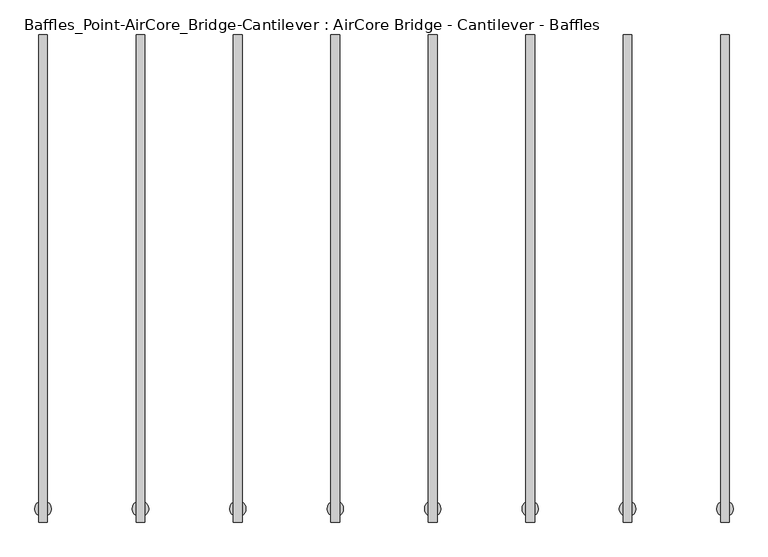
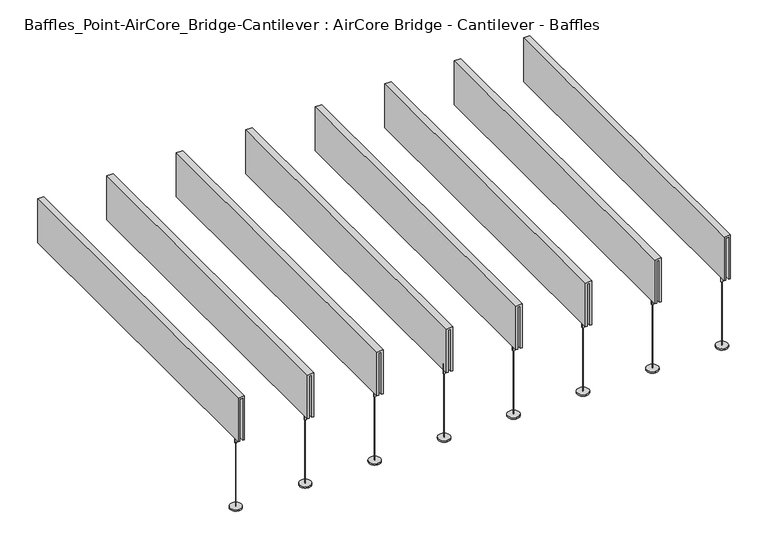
"""IFC4 building model written with IfcOpenShell, lengths in millimetres: light fixture geometry, Baffles_Point-AirCore_Bridge-Cantilever : AirCore Bridge - Cantilever - Baffles."""

from ifc_helpers import new_model, si_unit, point, frame, frame_2d, origin, origin_with_axes, place, context, project, spatial, polyline, circle_curve, trimmed, segment, composite_curve, outline, extrude, source, transform, mapped, element, save
from ifc_brep_helpers import plane_surface, cylinder_surface, advanced_brep


def baffles_point_aircore_bridge_cantilever_aircore_bridge_8e100021(model_context):
    return source(origin(), model_context, "Body", "SolidModel", [
        extrude(outline(polyline([(1060.846875, 123.825), (1072.753125, 123.825), (1072.753125, -1343.025), (1060.846875, -1343.025), (1060.846875, 123.825)])), frame((0.0, 0.0, 333.9703125), z_axis=(0.0, 0.0, 1.0), x_axis=(1.0, 0.0, 0.0)), (0.0, 0.0, 1.0), 195.2625),
        extrude(outline(polyline([(537.1703125, 1080.690625), (537.1703125, 1052.909375), (333.9703125, 1052.909375), (333.9703125, 1060.846875), (529.2328125, 1060.846875), (529.2328125, 1072.753125), (333.9703125, 1072.753125), (333.9703125, 1080.690625), (537.1703125, 1080.690625)])), frame((0.0, -1371.6, 0.0), z_axis=(0.0, 1.0, 0.0), x_axis=(0.0, 0.0, 1.0)), (0.0, 0.0, 1.0), 1524.0),
        advanced_brep(
        [(1066.8, -1330.325, 0.0), (1067.7237535, -1330.325, 0.0), (1065.8762465, -1330.325, 0.0), (1067.7237535, -1330.325, 302.2203125), (1065.8762465, -1330.325, 302.2203125), (1070.76875, -1330.325, 302.2203125), (1062.83125, -1330.325, 302.2203125), (1070.76875, -1330.325, 346.6703125), (1062.83125, -1330.325, 346.6703125), (1066.8, -1330.325, 346.6703125)],
        [
            (0, 1),
            (1, 2, circle_curve(frame((1066.8, -1330.325, 0.0), z_axis=(0.0, 0.0, -1.0), x_axis=(1.0, 0.0, 0.0)), 0.9237535)),
            (2, 0),
            (2, 1, circle_curve(frame((1066.8, -1330.325, 0.0), z_axis=(0.0, 0.0, -1.0), x_axis=(1.0, 0.0, 0.0)), 0.9237535)),
            (1, 3),
            (3, 4, circle_curve(frame((1066.8, -1330.325, 302.2203125), z_axis=(0.0, 0.0, -1.0), x_axis=(1.0, 0.0, 0.0)), 0.9237535)),
            (4, 2),
            (4, 3, circle_curve(frame((1066.8, -1330.325, 302.2203125), z_axis=(0.0, 0.0, -1.0), x_axis=(1.0, 0.0, 0.0)), 0.9237535)),
            (3, 5),
            (5, 6, circle_curve(frame((1066.8, -1330.325, 302.2203125), z_axis=(0.0, 0.0, -1.0), x_axis=(1.0, 0.0, 0.0)), 3.96875)),
            (6, 4),
            (6, 5, circle_curve(frame((1066.8, -1330.325, 302.2203125), z_axis=(0.0, 0.0, -1.0), x_axis=(1.0, 0.0, 0.0)), 3.96875)),
            (5, 7),
            (7, 8, circle_curve(frame((1066.8, -1330.325, 346.6703125), z_axis=(0.0, 0.0, -1.0), x_axis=(1.0, 0.0, 0.0)), 3.96875)),
            (8, 6),
            (8, 7, circle_curve(frame((1066.8, -1330.325, 346.6703125), z_axis=(0.0, 0.0, -1.0), x_axis=(1.0, 0.0, 0.0)), 3.96875)),
            (7, 9),
            (9, 8),
        ],
        [
            plane_surface(frame((1066.8, -1330.325, 0.0), z_axis=(0.0, 0.0, -1.0), x_axis=(1.0, 0.0, 0.0))),
            cylinder_surface(frame((1066.8, -1330.325, 391.1203125), z_axis=(0.0, 0.0, -1.0), x_axis=(1.0, 0.0, 0.0)), 0.9237535),
            plane_surface(frame((1066.8, -1330.325, 302.2203125), z_axis=(0.0, 0.0, -1.0), x_axis=(1.0, 0.0, 0.0))),
            cylinder_surface(frame((1066.8, -1330.325, 391.1203125), z_axis=(0.0, 0.0, -1.0), x_axis=(1.0, 0.0, 0.0)), 3.96875),
            plane_surface(frame((1066.8, -1330.325, 346.6703125), z_axis=(0.0, 0.0, 1.0), x_axis=(1.0, 0.0, 0.0))),
        ],
        [
            (0, [[1, 2, 3]]),
            (0, [[-3, 4, -1]]),
            (1, [[-2, 5, 6, 7]]),
            (1, [[-4, -7, 8, -5]]),
            (2, [[-6, 9, 10, 11]]),
            (2, [[-8, -11, 12, -9]]),
            (3, [[-10, 13, 14, 15]]),
            (3, [[-12, -15, 16, -13]]),
            (4, [[-14, 17, 18]]),
            (4, [[-16, -18, -17]]),
        ],
    ),
        extrude(outline(composite_curve([segment(trimmed(circle_curve(frame_2d((1066.8, -1330.325)), 25.4), [point((1066.8, -1355.725))], [point((1066.8, -1304.925))], False, "CARTESIAN"), True, "CONTINUOUS"), segment(trimmed(circle_curve(frame_2d((1066.8, -1330.325)), 25.4), [point((1066.8, -1304.925))], [point((1066.8, -1355.725))], False, "CARTESIAN"), True, "CONTINUOUS")], self_intersect=False)), origin_with_axes(), (0.0, 0.0, 1.0), 6.35),
        extrude(outline(polyline([(756.046875, 123.825), (767.953125, 123.825), (767.953125, -1343.025), (756.046875, -1343.025), (756.046875, 123.825)])), frame((0.0, 0.0, 333.9703125), z_axis=(0.0, 0.0, 1.0), x_axis=(1.0, 0.0, 0.0)), (0.0, 0.0, 1.0), 195.2625),
        extrude(outline(polyline([(537.1703125, 775.890625), (537.1703125, 748.109375), (333.9703125, 748.109375), (333.9703125, 756.046875), (529.2328125, 756.046875), (529.2328125, 767.953125), (333.9703125, 767.953125), (333.9703125, 775.890625), (537.1703125, 775.890625)])), frame((0.0, -1371.6, 0.0), z_axis=(0.0, 1.0, 0.0), x_axis=(0.0, 0.0, 1.0)), (0.0, 0.0, 1.0), 1524.0),
        advanced_brep(
        [(762.0, -1330.325, 0.0), (762.9237535, -1330.325, 0.0), (761.0762465, -1330.325, 0.0), (762.9237535, -1330.325, 302.2203125), (761.0762465, -1330.325, 302.2203125), (765.96875, -1330.325, 302.2203125), (758.03125, -1330.325, 302.2203125), (765.96875, -1330.325, 346.6703125), (758.03125, -1330.325, 346.6703125), (762.0, -1330.325, 346.6703125)],
        [
            (0, 1),
            (1, 2, circle_curve(frame((762.0, -1330.325, 0.0), z_axis=(0.0, 0.0, -1.0), x_axis=(1.0, 0.0, 0.0)), 0.9237535)),
            (2, 0),
            (2, 1, circle_curve(frame((762.0, -1330.325, 0.0), z_axis=(0.0, 0.0, -1.0), x_axis=(1.0, 0.0, 0.0)), 0.9237535)),
            (1, 3),
            (3, 4, circle_curve(frame((762.0, -1330.325, 302.2203125), z_axis=(0.0, 0.0, -1.0), x_axis=(1.0, 0.0, 0.0)), 0.9237535)),
            (4, 2),
            (4, 3, circle_curve(frame((762.0, -1330.325, 302.2203125), z_axis=(0.0, 0.0, -1.0), x_axis=(1.0, 0.0, 0.0)), 0.9237535)),
            (3, 5),
            (5, 6, circle_curve(frame((762.0, -1330.325, 302.2203125), z_axis=(0.0, 0.0, -1.0), x_axis=(1.0, 0.0, 0.0)), 3.96875)),
            (6, 4),
            (6, 5, circle_curve(frame((762.0, -1330.325, 302.2203125), z_axis=(0.0, 0.0, -1.0), x_axis=(1.0, 0.0, 0.0)), 3.96875)),
            (5, 7),
            (7, 8, circle_curve(frame((762.0, -1330.325, 346.6703125), z_axis=(0.0, 0.0, -1.0), x_axis=(1.0, 0.0, 0.0)), 3.96875)),
            (8, 6),
            (8, 7, circle_curve(frame((762.0, -1330.325, 346.6703125), z_axis=(0.0, 0.0, -1.0), x_axis=(1.0, 0.0, 0.0)), 3.96875)),
            (7, 9),
            (9, 8),
        ],
        [
            plane_surface(frame((762.0, -1330.325, 0.0), z_axis=(0.0, 0.0, -1.0), x_axis=(1.0, 0.0, 0.0))),
            cylinder_surface(frame((762.0, -1330.325, 391.1203125), z_axis=(0.0, 0.0, -1.0), x_axis=(1.0, 0.0, 0.0)), 0.9237535),
            plane_surface(frame((762.0, -1330.325, 302.2203125), z_axis=(0.0, 0.0, -1.0), x_axis=(1.0, 0.0, 0.0))),
            cylinder_surface(frame((762.0, -1330.325, 391.1203125), z_axis=(0.0, 0.0, -1.0), x_axis=(1.0, 0.0, 0.0)), 3.96875),
            plane_surface(frame((762.0, -1330.325, 346.6703125), z_axis=(0.0, 0.0, 1.0), x_axis=(1.0, 0.0, 0.0))),
        ],
        [
            (0, [[1, 2, 3]]),
            (0, [[-3, 4, -1]]),
            (1, [[-2, 5, 6, 7]]),
            (1, [[-4, -7, 8, -5]]),
            (2, [[-6, 9, 10, 11]]),
            (2, [[-8, -11, 12, -9]]),
            (3, [[-10, 13, 14, 15]]),
            (3, [[-12, -15, 16, -13]]),
            (4, [[-14, 17, 18]]),
            (4, [[-16, -18, -17]]),
        ],
    ),
        extrude(outline(composite_curve([segment(trimmed(circle_curve(frame_2d((762.0, -1330.325)), 25.4), [point((762.0, -1355.725))], [point((762.0, -1304.925))], False, "CARTESIAN"), True, "CONTINUOUS"), segment(trimmed(circle_curve(frame_2d((762.0, -1330.325)), 25.4), [point((762.0, -1304.925))], [point((762.0, -1355.725))], False, "CARTESIAN"), True, "CONTINUOUS")], self_intersect=False)), origin_with_axes(), (0.0, 0.0, 1.0), 6.35),
        extrude(outline(polyline([(451.246875, 123.825), (463.153125, 123.825), (463.153125, -1343.025), (451.246875, -1343.025), (451.246875, 123.825)])), frame((0.0, 0.0, 333.9703125), z_axis=(0.0, 0.0, 1.0), x_axis=(1.0, 0.0, 0.0)), (0.0, 0.0, 1.0), 195.2625),
        extrude(outline(polyline([(537.1703125, 471.090625), (537.1703125, 443.309375), (333.9703125, 443.309375), (333.9703125, 451.246875), (529.2328125, 451.246875), (529.2328125, 463.153125), (333.9703125, 463.153125), (333.9703125, 471.090625), (537.1703125, 471.090625)])), frame((0.0, -1371.6, 0.0), z_axis=(0.0, 1.0, 0.0), x_axis=(0.0, 0.0, 1.0)), (0.0, 0.0, 1.0), 1524.0),
        advanced_brep(
        [(457.2, -1330.325, 0.0), (458.1237535, -1330.325, 0.0), (456.2762465, -1330.325, 0.0), (458.1237535, -1330.325, 302.2203125), (456.2762465, -1330.325, 302.2203125), (461.16875, -1330.325, 302.2203125), (453.23125, -1330.325, 302.2203125), (461.16875, -1330.325, 346.6703125), (453.23125, -1330.325, 346.6703125), (457.2, -1330.325, 346.6703125)],
        [
            (0, 1),
            (1, 2, circle_curve(frame((457.2, -1330.325, 0.0), z_axis=(0.0, 0.0, -1.0), x_axis=(1.0, 0.0, 0.0)), 0.9237535)),
            (2, 0),
            (2, 1, circle_curve(frame((457.2, -1330.325, 0.0), z_axis=(0.0, 0.0, -1.0), x_axis=(1.0, 0.0, 0.0)), 0.9237535)),
            (1, 3),
            (3, 4, circle_curve(frame((457.2, -1330.325, 302.2203125), z_axis=(0.0, 0.0, -1.0), x_axis=(1.0, 0.0, 0.0)), 0.9237535)),
            (4, 2),
            (4, 3, circle_curve(frame((457.2, -1330.325, 302.2203125), z_axis=(0.0, 0.0, -1.0), x_axis=(1.0, 0.0, 0.0)), 0.9237535)),
            (3, 5),
            (5, 6, circle_curve(frame((457.2, -1330.325, 302.2203125), z_axis=(0.0, 0.0, -1.0), x_axis=(1.0, 0.0, 0.0)), 3.96875)),
            (6, 4),
            (6, 5, circle_curve(frame((457.2, -1330.325, 302.2203125), z_axis=(0.0, 0.0, -1.0), x_axis=(1.0, 0.0, 0.0)), 3.96875)),
            (5, 7),
            (7, 8, circle_curve(frame((457.2, -1330.325, 346.6703125), z_axis=(0.0, 0.0, -1.0), x_axis=(1.0, 0.0, 0.0)), 3.96875)),
            (8, 6),
            (8, 7, circle_curve(frame((457.2, -1330.325, 346.6703125), z_axis=(0.0, 0.0, -1.0), x_axis=(1.0, 0.0, 0.0)), 3.96875)),
            (7, 9),
            (9, 8),
        ],
        [
            plane_surface(frame((457.2, -1330.325, 0.0), z_axis=(0.0, 0.0, -1.0), x_axis=(1.0, 0.0, 0.0))),
            cylinder_surface(frame((457.2, -1330.325, 391.1203125), z_axis=(0.0, 0.0, -1.0), x_axis=(1.0, 0.0, 0.0)), 0.9237535),
            plane_surface(frame((457.2, -1330.325, 302.2203125), z_axis=(0.0, 0.0, -1.0), x_axis=(1.0, 0.0, 0.0))),
            cylinder_surface(frame((457.2, -1330.325, 391.1203125), z_axis=(0.0, 0.0, -1.0), x_axis=(1.0, 0.0, 0.0)), 3.96875),
            plane_surface(frame((457.2, -1330.325, 346.6703125), z_axis=(0.0, 0.0, 1.0), x_axis=(1.0, 0.0, 0.0))),
        ],
        [
            (0, [[1, 2, 3]]),
            (0, [[-3, 4, -1]]),
            (1, [[-2, 5, 6, 7]]),
            (1, [[-4, -7, 8, -5]]),
            (2, [[-6, 9, 10, 11]]),
            (2, [[-8, -11, 12, -9]]),
            (3, [[-10, 13, 14, 15]]),
            (3, [[-12, -15, 16, -13]]),
            (4, [[-14, 17, 18]]),
            (4, [[-16, -18, -17]]),
        ],
    ),
        extrude(outline(composite_curve([segment(trimmed(circle_curve(frame_2d((457.2, -1330.325)), 25.4), [point((457.2, -1355.725))], [point((457.2, -1304.925))], False, "CARTESIAN"), True, "CONTINUOUS"), segment(trimmed(circle_curve(frame_2d((457.2, -1330.325)), 25.4), [point((457.2, -1304.925))], [point((457.2, -1355.725))], False, "CARTESIAN"), True, "CONTINUOUS")], self_intersect=False)), origin_with_axes(), (0.0, 0.0, 1.0), 6.35),
        extrude(outline(polyline([(146.446875, 123.825), (158.353125, 123.825), (158.353125, -1343.025), (146.446875, -1343.025), (146.446875, 123.825)])), frame((0.0, 0.0, 333.9703125), z_axis=(0.0, 0.0, 1.0), x_axis=(1.0, 0.0, 0.0)), (0.0, 0.0, 1.0), 195.2625),
        extrude(outline(polyline([(537.1703125, 166.290625), (537.1703125, 138.509375), (333.9703125, 138.509375), (333.9703125, 146.446875), (529.2328125, 146.446875), (529.2328125, 158.353125), (333.9703125, 158.353125), (333.9703125, 166.290625), (537.1703125, 166.290625)])), frame((0.0, -1371.6, 0.0), z_axis=(0.0, 1.0, 0.0), x_axis=(0.0, 0.0, 1.0)), (0.0, 0.0, 1.0), 1524.0),
        advanced_brep(
        [(152.4, -1330.325, 0.0), (153.3237535, -1330.325, 0.0), (151.4762465, -1330.325, 0.0), (153.3237535, -1330.325, 302.2203125), (151.4762465, -1330.325, 302.2203125), (156.36875, -1330.325, 302.2203125), (148.43125, -1330.325, 302.2203125), (156.36875, -1330.325, 346.6703125), (148.43125, -1330.325, 346.6703125), (152.4, -1330.325, 346.6703125)],
        [
            (0, 1),
            (1, 2, circle_curve(frame((152.4, -1330.325, 0.0), z_axis=(0.0, 0.0, -1.0), x_axis=(1.0, 0.0, 0.0)), 0.9237535)),
            (2, 0),
            (2, 1, circle_curve(frame((152.4, -1330.325, 0.0), z_axis=(0.0, 0.0, -1.0), x_axis=(1.0, 0.0, 0.0)), 0.9237535)),
            (1, 3),
            (3, 4, circle_curve(frame((152.4, -1330.325, 302.2203125), z_axis=(0.0, 0.0, -1.0), x_axis=(1.0, 0.0, 0.0)), 0.9237535)),
            (4, 2),
            (4, 3, circle_curve(frame((152.4, -1330.325, 302.2203125), z_axis=(0.0, 0.0, -1.0), x_axis=(1.0, 0.0, 0.0)), 0.9237535)),
            (3, 5),
            (5, 6, circle_curve(frame((152.4, -1330.325, 302.2203125), z_axis=(0.0, 0.0, -1.0), x_axis=(1.0, 0.0, 0.0)), 3.96875)),
            (6, 4),
            (6, 5, circle_curve(frame((152.4, -1330.325, 302.2203125), z_axis=(0.0, 0.0, -1.0), x_axis=(1.0, 0.0, 0.0)), 3.96875)),
            (5, 7),
            (7, 8, circle_curve(frame((152.4, -1330.325, 346.6703125), z_axis=(0.0, 0.0, -1.0), x_axis=(1.0, 0.0, 0.0)), 3.96875)),
            (8, 6),
            (8, 7, circle_curve(frame((152.4, -1330.325, 346.6703125), z_axis=(0.0, 0.0, -1.0), x_axis=(1.0, 0.0, 0.0)), 3.96875)),
            (7, 9),
            (9, 8),
        ],
        [
            plane_surface(frame((152.4, -1330.325, 0.0), z_axis=(0.0, 0.0, -1.0), x_axis=(1.0, 0.0, 0.0))),
            cylinder_surface(frame((152.4, -1330.325, 391.1203125), z_axis=(0.0, 0.0, -1.0), x_axis=(1.0, 0.0, 0.0)), 0.9237535),
            plane_surface(frame((152.4, -1330.325, 302.2203125), z_axis=(0.0, 0.0, -1.0), x_axis=(1.0, 0.0, 0.0))),
            cylinder_surface(frame((152.4, -1330.325, 391.1203125), z_axis=(0.0, 0.0, -1.0), x_axis=(1.0, 0.0, 0.0)), 3.96875),
            plane_surface(frame((152.4, -1330.325, 346.6703125), z_axis=(0.0, 0.0, 1.0), x_axis=(1.0, 0.0, 0.0))),
        ],
        [
            (0, [[1, 2, 3]]),
            (0, [[-3, 4, -1]]),
            (1, [[-2, 5, 6, 7]]),
            (1, [[-4, -7, 8, -5]]),
            (2, [[-6, 9, 10, 11]]),
            (2, [[-8, -11, 12, -9]]),
            (3, [[-10, 13, 14, 15]]),
            (3, [[-12, -15, 16, -13]]),
            (4, [[-14, 17, 18]]),
            (4, [[-16, -18, -17]]),
        ],
    ),
        extrude(outline(composite_curve([segment(trimmed(circle_curve(frame_2d((152.4, -1330.325)), 25.4), [point((152.4, -1355.725))], [point((152.4, -1304.925))], False, "CARTESIAN"), True, "CONTINUOUS"), segment(trimmed(circle_curve(frame_2d((152.4, -1330.325)), 25.4), [point((152.4, -1304.925))], [point((152.4, -1355.725))], False, "CARTESIAN"), True, "CONTINUOUS")], self_intersect=False)), origin_with_axes(), (0.0, 0.0, 1.0), 6.35),
        extrude(outline(polyline([(-158.353125, 123.825), (-146.446875, 123.825), (-146.446875, -1343.025), (-158.353125, -1343.025), (-158.353125, 123.825)])), frame((0.0, 0.0, 333.9703125), z_axis=(0.0, 0.0, 1.0), x_axis=(1.0, 0.0, 0.0)), (0.0, 0.0, 1.0), 195.2625),
        extrude(outline(polyline([(537.1703125, -138.509375), (537.1703125, -166.290625), (333.9703125, -166.290625), (333.9703125, -158.353125), (529.2328125, -158.353125), (529.2328125, -146.446875), (333.9703125, -146.446875), (333.9703125, -138.509375), (537.1703125, -138.509375)])), frame((0.0, -1371.6, 0.0), z_axis=(0.0, 1.0, 0.0), x_axis=(0.0, 0.0, 1.0)), (0.0, 0.0, 1.0), 1524.0),
        advanced_brep(
        [(-152.4, -1330.325, 0.0), (-151.4762465, -1330.325, 0.0), (-153.3237535, -1330.325, 0.0), (-151.4762465, -1330.325, 302.2203125), (-153.3237535, -1330.325, 302.2203125), (-148.43125, -1330.325, 302.2203125), (-156.36875, -1330.325, 302.2203125), (-148.43125, -1330.325, 346.6703125), (-156.36875, -1330.325, 346.6703125), (-152.4, -1330.325, 346.6703125)],
        [
            (0, 1),
            (1, 2, circle_curve(frame((-152.4, -1330.325, 0.0), z_axis=(0.0, 0.0, -1.0), x_axis=(1.0, 0.0, 0.0)), 0.9237535)),
            (2, 0),
            (2, 1, circle_curve(frame((-152.4, -1330.325, 0.0), z_axis=(0.0, 0.0, -1.0), x_axis=(1.0, 0.0, 0.0)), 0.9237535)),
            (1, 3),
            (3, 4, circle_curve(frame((-152.4, -1330.325, 302.2203125), z_axis=(0.0, 0.0, -1.0), x_axis=(1.0, 0.0, 0.0)), 0.9237535)),
            (4, 2),
            (4, 3, circle_curve(frame((-152.4, -1330.325, 302.2203125), z_axis=(0.0, 0.0, -1.0), x_axis=(1.0, 0.0, 0.0)), 0.9237535)),
            (3, 5),
            (5, 6, circle_curve(frame((-152.4, -1330.325, 302.2203125), z_axis=(0.0, 0.0, -1.0), x_axis=(1.0, 0.0, 0.0)), 3.96875)),
            (6, 4),
            (6, 5, circle_curve(frame((-152.4, -1330.325, 302.2203125), z_axis=(0.0, 0.0, -1.0), x_axis=(1.0, 0.0, 0.0)), 3.96875)),
            (5, 7),
            (7, 8, circle_curve(frame((-152.4, -1330.325, 346.6703125), z_axis=(0.0, 0.0, -1.0), x_axis=(1.0, 0.0, 0.0)), 3.96875)),
            (8, 6),
            (8, 7, circle_curve(frame((-152.4, -1330.325, 346.6703125), z_axis=(0.0, 0.0, -1.0), x_axis=(1.0, 0.0, 0.0)), 3.96875)),
            (7, 9),
            (9, 8),
        ],
        [
            plane_surface(frame((-152.4, -1330.325, 0.0), z_axis=(0.0, 0.0, -1.0), x_axis=(1.0, 0.0, 0.0))),
            cylinder_surface(frame((-152.4, -1330.325, 391.1203125), z_axis=(0.0, 0.0, -1.0), x_axis=(1.0, 0.0, 0.0)), 0.9237535),
            plane_surface(frame((-152.4, -1330.325, 302.2203125), z_axis=(0.0, 0.0, -1.0), x_axis=(1.0, 0.0, 0.0))),
            cylinder_surface(frame((-152.4, -1330.325, 391.1203125), z_axis=(0.0, 0.0, -1.0), x_axis=(1.0, 0.0, 0.0)), 3.96875),
            plane_surface(frame((-152.4, -1330.325, 346.6703125), z_axis=(0.0, 0.0, 1.0), x_axis=(1.0, 0.0, 0.0))),
        ],
        [
            (0, [[1, 2, 3]]),
            (0, [[-3, 4, -1]]),
            (1, [[-2, 5, 6, 7]]),
            (1, [[-4, -7, 8, -5]]),
            (2, [[-6, 9, 10, 11]]),
            (2, [[-8, -11, 12, -9]]),
            (3, [[-10, 13, 14, 15]]),
            (3, [[-12, -15, 16, -13]]),
            (4, [[-14, 17, 18]]),
            (4, [[-16, -18, -17]]),
        ],
    ),
        extrude(outline(composite_curve([segment(trimmed(circle_curve(frame_2d((-152.4, -1330.325)), 25.4), [point((-152.4, -1355.725))], [point((-152.4, -1304.925))], False, "CARTESIAN"), True, "CONTINUOUS"), segment(trimmed(circle_curve(frame_2d((-152.4, -1330.325)), 25.4), [point((-152.4, -1304.925))], [point((-152.4, -1355.725))], False, "CARTESIAN"), True, "CONTINUOUS")], self_intersect=False)), origin_with_axes(), (0.0, 0.0, 1.0), 6.35),
        extrude(outline(polyline([(-463.153125, 123.825), (-451.246875, 123.825), (-451.246875, -1343.025), (-463.153125, -1343.025), (-463.153125, 123.825)])), frame((0.0, 0.0, 333.9703125), z_axis=(0.0, 0.0, 1.0), x_axis=(1.0, 0.0, 0.0)), (0.0, 0.0, 1.0), 195.2625),
        extrude(outline(polyline([(537.1703125, -443.309375), (537.1703125, -471.090625), (333.9703125, -471.090625), (333.9703125, -463.153125), (529.2328125, -463.153125), (529.2328125, -451.246875), (333.9703125, -451.246875), (333.9703125, -443.309375), (537.1703125, -443.309375)])), frame((0.0, -1371.6, 0.0), z_axis=(0.0, 1.0, 0.0), x_axis=(0.0, 0.0, 1.0)), (0.0, 0.0, 1.0), 1524.0),
        advanced_brep(
        [(-457.2, -1330.325, 0.0), (-456.2762465, -1330.325, 0.0), (-458.1237535, -1330.325, 0.0), (-456.2762465, -1330.325, 302.2203125), (-458.1237535, -1330.325, 302.2203125), (-453.23125, -1330.325, 302.2203125), (-461.16875, -1330.325, 302.2203125), (-453.23125, -1330.325, 346.6703125), (-461.16875, -1330.325, 346.6703125), (-457.2, -1330.325, 346.6703125)],
        [
            (0, 1),
            (1, 2, circle_curve(frame((-457.2, -1330.325, 0.0), z_axis=(0.0, 0.0, -1.0), x_axis=(1.0, 0.0, 0.0)), 0.9237535)),
            (2, 0),
            (2, 1, circle_curve(frame((-457.2, -1330.325, 0.0), z_axis=(0.0, 0.0, -1.0), x_axis=(1.0, 0.0, 0.0)), 0.9237535)),
            (1, 3),
            (3, 4, circle_curve(frame((-457.2, -1330.325, 302.2203125), z_axis=(0.0, 0.0, -1.0), x_axis=(1.0, 0.0, 0.0)), 0.9237535)),
            (4, 2),
            (4, 3, circle_curve(frame((-457.2, -1330.325, 302.2203125), z_axis=(0.0, 0.0, -1.0), x_axis=(1.0, 0.0, 0.0)), 0.9237535)),
            (3, 5),
            (5, 6, circle_curve(frame((-457.2, -1330.325, 302.2203125), z_axis=(0.0, 0.0, -1.0), x_axis=(1.0, 0.0, 0.0)), 3.96875)),
            (6, 4),
            (6, 5, circle_curve(frame((-457.2, -1330.325, 302.2203125), z_axis=(0.0, 0.0, -1.0), x_axis=(1.0, 0.0, 0.0)), 3.96875)),
            (5, 7),
            (7, 8, circle_curve(frame((-457.2, -1330.325, 346.6703125), z_axis=(0.0, 0.0, -1.0), x_axis=(1.0, 0.0, 0.0)), 3.96875)),
            (8, 6),
            (8, 7, circle_curve(frame((-457.2, -1330.325, 346.6703125), z_axis=(0.0, 0.0, -1.0), x_axis=(1.0, 0.0, 0.0)), 3.96875)),
            (7, 9),
            (9, 8),
        ],
        [
            plane_surface(frame((-457.2, -1330.325, 0.0), z_axis=(0.0, 0.0, -1.0), x_axis=(1.0, 0.0, 0.0))),
            cylinder_surface(frame((-457.2, -1330.325, 391.1203125), z_axis=(0.0, 0.0, -1.0), x_axis=(1.0, 0.0, 0.0)), 0.9237535),
            plane_surface(frame((-457.2, -1330.325, 302.2203125), z_axis=(0.0, 0.0, -1.0), x_axis=(1.0, 0.0, 0.0))),
            cylinder_surface(frame((-457.2, -1330.325, 391.1203125), z_axis=(0.0, 0.0, -1.0), x_axis=(1.0, 0.0, 0.0)), 3.96875),
            plane_surface(frame((-457.2, -1330.325, 346.6703125), z_axis=(0.0, 0.0, 1.0), x_axis=(1.0, 0.0, 0.0))),
        ],
        [
            (0, [[1, 2, 3]]),
            (0, [[-3, 4, -1]]),
            (1, [[-2, 5, 6, 7]]),
            (1, [[-4, -7, 8, -5]]),
            (2, [[-6, 9, 10, 11]]),
            (2, [[-8, -11, 12, -9]]),
            (3, [[-10, 13, 14, 15]]),
            (3, [[-12, -15, 16, -13]]),
            (4, [[-14, 17, 18]]),
            (4, [[-16, -18, -17]]),
        ],
    ),
        extrude(outline(composite_curve([segment(trimmed(circle_curve(frame_2d((-457.2, -1330.325)), 25.4), [point((-457.2, -1355.725))], [point((-457.2, -1304.925))], False, "CARTESIAN"), True, "CONTINUOUS"), segment(trimmed(circle_curve(frame_2d((-457.2, -1330.325)), 25.4), [point((-457.2, -1304.925))], [point((-457.2, -1355.725))], False, "CARTESIAN"), True, "CONTINUOUS")], self_intersect=False)), origin_with_axes(), (0.0, 0.0, 1.0), 6.35),
        extrude(outline(polyline([(-767.953125, 123.825), (-756.046875, 123.825), (-756.046875, -1343.025), (-767.953125, -1343.025), (-767.953125, 123.825)])), frame((0.0, 0.0, 333.9703125), z_axis=(0.0, 0.0, 1.0), x_axis=(1.0, 0.0, 0.0)), (0.0, 0.0, 1.0), 195.2625),
        extrude(outline(polyline([(537.1703125, -748.109375), (537.1703125, -775.890625), (333.9703125, -775.890625), (333.9703125, -767.953125), (529.2328125, -767.953125), (529.2328125, -756.046875), (333.9703125, -756.046875), (333.9703125, -748.109375), (537.1703125, -748.109375)])), frame((0.0, -1371.6, 0.0), z_axis=(0.0, 1.0, 0.0), x_axis=(0.0, 0.0, 1.0)), (0.0, 0.0, 1.0), 1524.0),
        advanced_brep(
        [(-762.0, -1330.325, 0.0), (-761.0762465, -1330.325, 0.0), (-762.9237535, -1330.325, 0.0), (-761.0762465, -1330.325, 302.2203125), (-762.9237535, -1330.325, 302.2203125), (-758.03125, -1330.325, 302.2203125), (-765.96875, -1330.325, 302.2203125), (-758.03125, -1330.325, 346.6703125), (-765.96875, -1330.325, 346.6703125), (-762.0, -1330.325, 346.6703125)],
        [
            (0, 1),
            (1, 2, circle_curve(frame((-762.0, -1330.325, 0.0), z_axis=(0.0, 0.0, -1.0), x_axis=(1.0, 0.0, 0.0)), 0.9237535)),
            (2, 0),
            (2, 1, circle_curve(frame((-762.0, -1330.325, 0.0), z_axis=(0.0, 0.0, -1.0), x_axis=(1.0, 0.0, 0.0)), 0.9237535)),
            (1, 3),
            (3, 4, circle_curve(frame((-762.0, -1330.325, 302.2203125), z_axis=(0.0, 0.0, -1.0), x_axis=(1.0, 0.0, 0.0)), 0.9237535)),
            (4, 2),
            (4, 3, circle_curve(frame((-762.0, -1330.325, 302.2203125), z_axis=(0.0, 0.0, -1.0), x_axis=(1.0, 0.0, 0.0)), 0.9237535)),
            (3, 5),
            (5, 6, circle_curve(frame((-762.0, -1330.325, 302.2203125), z_axis=(0.0, 0.0, -1.0), x_axis=(1.0, 0.0, 0.0)), 3.96875)),
            (6, 4),
            (6, 5, circle_curve(frame((-762.0, -1330.325, 302.2203125), z_axis=(0.0, 0.0, -1.0), x_axis=(1.0, 0.0, 0.0)), 3.96875)),
            (5, 7),
            (7, 8, circle_curve(frame((-762.0, -1330.325, 346.6703125), z_axis=(0.0, 0.0, -1.0), x_axis=(1.0, 0.0, 0.0)), 3.96875)),
            (8, 6),
            (8, 7, circle_curve(frame((-762.0, -1330.325, 346.6703125), z_axis=(0.0, 0.0, -1.0), x_axis=(1.0, 0.0, 0.0)), 3.96875)),
            (7, 9),
            (9, 8),
        ],
        [
            plane_surface(frame((-762.0, -1330.325, 0.0), z_axis=(0.0, 0.0, -1.0), x_axis=(1.0, 0.0, 0.0))),
            cylinder_surface(frame((-762.0, -1330.325, 391.1203125), z_axis=(0.0, 0.0, -1.0), x_axis=(1.0, 0.0, 0.0)), 0.9237535),
            plane_surface(frame((-762.0, -1330.325, 302.2203125), z_axis=(0.0, 0.0, -1.0), x_axis=(1.0, 0.0, 0.0))),
            cylinder_surface(frame((-762.0, -1330.325, 391.1203125), z_axis=(0.0, 0.0, -1.0), x_axis=(1.0, 0.0, 0.0)), 3.96875),
            plane_surface(frame((-762.0, -1330.325, 346.6703125), z_axis=(0.0, 0.0, 1.0), x_axis=(1.0, 0.0, 0.0))),
        ],
        [
            (0, [[1, 2, 3]]),
            (0, [[-3, 4, -1]]),
            (1, [[-2, 5, 6, 7]]),
            (1, [[-4, -7, 8, -5]]),
            (2, [[-6, 9, 10, 11]]),
            (2, [[-8, -11, 12, -9]]),
            (3, [[-10, 13, 14, 15]]),
            (3, [[-12, -15, 16, -13]]),
            (4, [[-14, 17, 18]]),
            (4, [[-16, -18, -17]]),
        ],
    ),
        extrude(outline(composite_curve([segment(trimmed(circle_curve(frame_2d((-762.0, -1330.325)), 25.4), [point((-762.0, -1355.725))], [point((-762.0, -1304.925))], False, "CARTESIAN"), True, "CONTINUOUS"), segment(trimmed(circle_curve(frame_2d((-762.0, -1330.325)), 25.4), [point((-762.0, -1304.925))], [point((-762.0, -1355.725))], False, "CARTESIAN"), True, "CONTINUOUS")], self_intersect=False)), origin_with_axes(), (0.0, 0.0, 1.0), 6.35),
        extrude(outline(polyline([(-1072.753125, 123.825), (-1060.846875, 123.825), (-1060.846875, -1343.025), (-1072.753125, -1343.025), (-1072.753125, 123.825)])), frame((0.0, 0.0, 333.9703125), z_axis=(0.0, 0.0, 1.0), x_axis=(1.0, 0.0, 0.0)), (0.0, 0.0, 1.0), 195.2625),
        extrude(outline(polyline([(537.1703125, -1052.909375), (537.1703125, -1080.690625), (333.9703125, -1080.690625), (333.9703125, -1072.753125), (529.2328125, -1072.753125), (529.2328125, -1060.846875), (333.9703125, -1060.846875), (333.9703125, -1052.909375), (537.1703125, -1052.909375)])), frame((0.0, -1371.6, 0.0), z_axis=(0.0, 1.0, 0.0), x_axis=(0.0, 0.0, 1.0)), (0.0, 0.0, 1.0), 1524.0),
        advanced_brep(
        [(-1066.8, -1330.325, 0.0), (-1065.8762465, -1330.325, 0.0), (-1067.7237535, -1330.325, 0.0), (-1065.8762465, -1330.325, 302.2203125), (-1067.7237535, -1330.325, 302.2203125), (-1062.83125, -1330.325, 302.2203125), (-1070.76875, -1330.325, 302.2203125), (-1062.83125, -1330.325, 346.6703125), (-1070.76875, -1330.325, 346.6703125), (-1066.8, -1330.325, 346.6703125)],
        [
            (0, 1),
            (1, 2, circle_curve(frame((-1066.8, -1330.325, 0.0), z_axis=(0.0, 0.0, -1.0), x_axis=(1.0, 0.0, 0.0)), 0.9237535)),
            (2, 0),
            (2, 1, circle_curve(frame((-1066.8, -1330.325, 0.0), z_axis=(0.0, 0.0, -1.0), x_axis=(1.0, 0.0, 0.0)), 0.9237535)),
            (1, 3),
            (3, 4, circle_curve(frame((-1066.8, -1330.325, 302.2203125), z_axis=(0.0, 0.0, -1.0), x_axis=(1.0, 0.0, 0.0)), 0.9237535)),
            (4, 2),
            (4, 3, circle_curve(frame((-1066.8, -1330.325, 302.2203125), z_axis=(0.0, 0.0, -1.0), x_axis=(1.0, 0.0, 0.0)), 0.9237535)),
            (3, 5),
            (5, 6, circle_curve(frame((-1066.8, -1330.325, 302.2203125), z_axis=(0.0, 0.0, -1.0), x_axis=(1.0, 0.0, 0.0)), 3.96875)),
            (6, 4),
            (6, 5, circle_curve(frame((-1066.8, -1330.325, 302.2203125), z_axis=(0.0, 0.0, -1.0), x_axis=(1.0, 0.0, 0.0)), 3.96875)),
            (5, 7),
            (7, 8, circle_curve(frame((-1066.8, -1330.325, 346.6703125), z_axis=(0.0, 0.0, -1.0), x_axis=(1.0, 0.0, 0.0)), 3.96875)),
            (8, 6),
            (8, 7, circle_curve(frame((-1066.8, -1330.325, 346.6703125), z_axis=(0.0, 0.0, -1.0), x_axis=(1.0, 0.0, 0.0)), 3.96875)),
            (7, 9),
            (9, 8),
        ],
        [
            plane_surface(frame((-1066.8, -1330.325, 0.0), z_axis=(0.0, 0.0, -1.0), x_axis=(1.0, 0.0, 0.0))),
            cylinder_surface(frame((-1066.8, -1330.325, 391.1203125), z_axis=(0.0, 0.0, -1.0), x_axis=(1.0, 0.0, 0.0)), 0.9237535),
            plane_surface(frame((-1066.8, -1330.325, 302.2203125), z_axis=(0.0, 0.0, -1.0), x_axis=(1.0, 0.0, 0.0))),
            cylinder_surface(frame((-1066.8, -1330.325, 391.1203125), z_axis=(0.0, 0.0, -1.0), x_axis=(1.0, 0.0, 0.0)), 3.96875),
            plane_surface(frame((-1066.8, -1330.325, 346.6703125), z_axis=(0.0, 0.0, 1.0), x_axis=(1.0, 0.0, 0.0))),
        ],
        [
            (0, [[1, 2, 3]]),
            (0, [[-3, 4, -1]]),
            (1, [[-2, 5, 6, 7]]),
            (1, [[-4, -7, 8, -5]]),
            (2, [[-6, 9, 10, 11]]),
            (2, [[-8, -11, 12, -9]]),
            (3, [[-10, 13, 14, 15]]),
            (3, [[-12, -15, 16, -13]]),
            (4, [[-14, 17, 18]]),
            (4, [[-16, -18, -17]]),
        ],
    ),
        extrude(outline(composite_curve([segment(trimmed(circle_curve(frame_2d((-1066.8, -1330.325)), 25.4), [point((-1066.8, -1355.725))], [point((-1066.8, -1304.925))], False, "CARTESIAN"), True, "CONTINUOUS"), segment(trimmed(circle_curve(frame_2d((-1066.8, -1330.325)), 25.4), [point((-1066.8, -1304.925))], [point((-1066.8, -1355.725))], False, "CARTESIAN"), True, "CONTINUOUS")], self_intersect=False)), origin_with_axes(), (0.0, 0.0, 1.0), 6.35),
    ])


if __name__ == "__main__":
    model = new_model("IFC4")
    model_context = context("Model", 3, world=origin())
    ifc_project = project(units=[si_unit("LENGTHUNIT", "METRE", prefix="MILLI")], contexts=[model_context])
    site = spatial("IfcSite", under=ifc_project)
    building = spatial("IfcBuilding", under=site)
    placement = place(None, origin())
    baffles_point_aircore_bridge_cantilever_aircore_bridge_shape = baffles_point_aircore_bridge_cantilever_aircore_bridge_8e100021(model_context)
    element("IfcLightFixture", 1, ObjectType="Baffles_Point-AirCore_Bridge-Cantilever : AirCore Bridge - Cantilever - Baffles", at=placement, inside=building, context=model_context, shape_type="MappedRepresentation", body=[
        mapped(baffles_point_aircore_bridge_cantilever_aircore_bridge_shape, transform((0.0, 0.0, 0.0), x_axis=(1.0, 0.0, 0.0), y_axis=(0.0, 1.0, 0.0), z_axis=(0.0, 0.0, 1.0))),
    ])
    save(model, "model.ifc")
